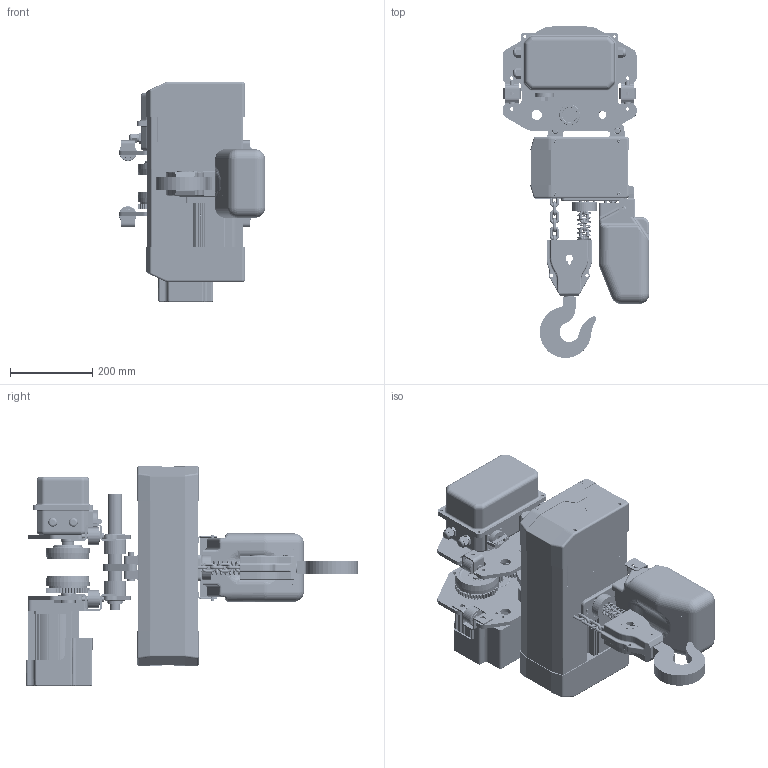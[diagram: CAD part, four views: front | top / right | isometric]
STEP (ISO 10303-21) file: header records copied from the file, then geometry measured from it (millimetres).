
FILE_DESCRIPTION(/* description */ ('CAx-IF Rec.Pracs.---Representation and Presentation of Product Manufacturing Information (PMI)---4.0---2014-10-13','CAx-IF Rec.Pracs.---3D Tessellated Geometry---0.4---2014-09-14','2;1'),/* implementation_level */ '2;1');
FILE_NAME(/* name */ 'YJ 02-02 运行式',/* time_stamp */ '2026-06-03T16:27:35+08:00',/* author */ (''),/* organization */ (''),/* preprocessor_version */ 'ST-DEVELOPER v16.7',/* originating_system */ $,/* authorisation */ $);
FILE_SCHEMA (('AP242_MANAGED_MODEL_BASED_3D_ENGINEERING_MIM_LF { 1 0 10303 442 20130219 1 4 }'));
Products named in the file (1): YJ 02-02 运行式
Bounding box: 356.03 x 806.79 x 535.05 mm (x, y, z)
Volume: 19565365 mm3; surface area: 2565620.2 mm2
Topology: 38 solids, 48 shells, 6227 faces, 15657 edges, 9625 vertices
Faces by surface type: plane 2196, cylinder 1857, bspline 1321, torus 524, cone 223, sphere 106
Full cylindrical faces by diameter (mm): 1.467 x1, 1.707 x1, 2.14 x1, 2.5 x2, 3.4 x2, 4 x2, 4.2 x4, 4.5 x4, 4.826 x4, 5.326 x2, 5.795 x4, 5.8 x2, 6 x6, 6.2 x2, 6.3 x4, 6.4 x4, 6.5 x6, 6.6 x8, 6.7 x4, 6.8 x4, 7 x2, 7.46 x1, 8 x4, 8.5 x12, 8.8 x4, 9 x6, 9.045 x2, 9.732 x4, 10 x4, 10.2 x8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
Entity records: 213012 total; most frequent: CARTESIAN_POINT 73484, ORIENTED_EDGE 29872, DIRECTION 26423, EDGE_CURVE 14936, AXIS2_PLACEMENT_3D 9508, VERTEX_POINT 9466, LINE 7423, VECTOR 7423
